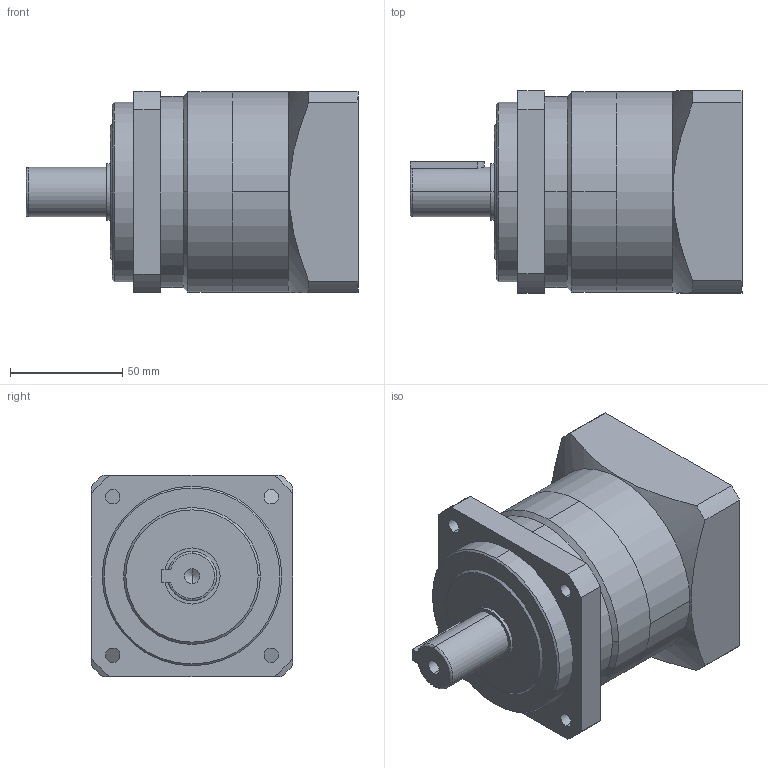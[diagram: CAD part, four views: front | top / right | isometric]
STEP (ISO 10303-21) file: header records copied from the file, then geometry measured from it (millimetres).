
FILE_DESCRIPTION (( 'STEP AP203' ), '1' );
FILE_NAME ('TB-090-L1-19-70-90-M6.STEP', '2025-05-13T07:45:10', ( 'Microsoft' ), ( 'Microsoft' ), 'SwSTEP 2.0', 'SolidWorks 2016', '' );
FILE_SCHEMA (( 'CONFIG_CONTROL_DESIGN' ));
Length unit declared in the file: millimetre
Products named in the file (1): TB-090-L1-19-70-90-M6
Bounding box: 148 x 90 x 90 mm (x, y, z)
Volume: 684644.6 mm3; surface area: 79035.5 mm2
Topology: 2 solids, 2 shells, 96 faces, 233 edges, 145 vertices
Faces by surface type: cylinder 47, plane 24, cone 18, bspline 7
Entity records: 3234 total; most frequent: CARTESIAN_POINT 900, DIRECTION 501, ORIENTED_EDGE 446, EDGE_CURVE 223, AXIS2_PLACEMENT_3D 204, VERTEX_POINT 145, EDGE_LOOP 118, CIRCLE 114
